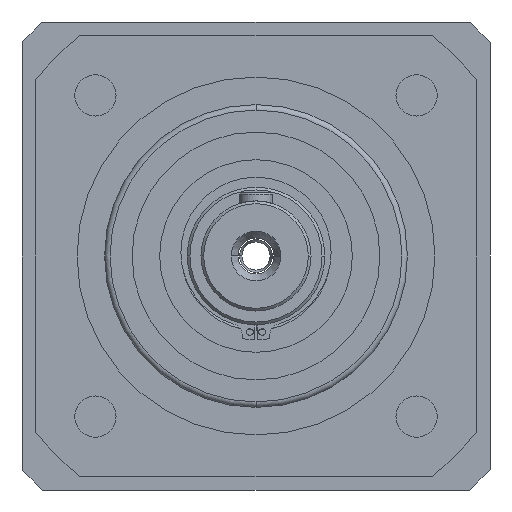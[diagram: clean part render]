
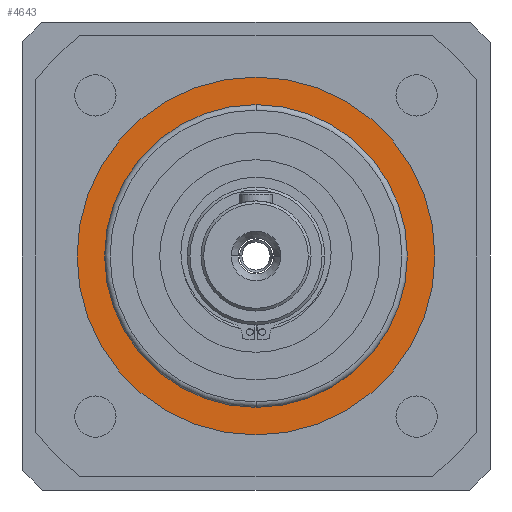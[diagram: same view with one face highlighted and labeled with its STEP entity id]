
A CAD part, front view. The second image highlights one B-rep face of the part: STEP entity #4643.
In plain terms, the highlighted planar face has unit normal (0, -1, 0).
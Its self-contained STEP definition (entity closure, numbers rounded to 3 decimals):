
#29 = DIRECTION ( 'NONE',  ( 0., 0., -1. ) ) ;
#251 = CARTESIAN_POINT ( 'NONE',  ( 0., -166.5, 0. ) ) ;
#283 = DIRECTION ( 'NONE',  ( 0., 0., 1. ) ) ;
#468 = VERTEX_POINT ( 'NONE', #5203 ) ;
#491 = ORIENTED_EDGE ( 'NONE', *, *, #3853, .T. ) ;
#1000 = DIRECTION ( 'NONE',  ( 0., -1., 0. ) ) ;
#1551 = EDGE_CURVE ( 'NONE', #3129, #3079, #8222, .T. ) ;
#1702 = DIRECTION ( 'NONE',  ( 0., 1., 0. ) ) ;
#2104 = AXIS2_PLACEMENT_3D ( 'NONE', #251, #1000, #283 ) ;
#2361 = CARTESIAN_POINT ( 'NONE',  ( 0., -166.5, 0. ) ) ;
#2461 = DIRECTION ( 'NONE',  ( 0., -1., 0. ) ) ;
#2475 = CIRCLE ( 'NONE', #5650, 55. ) ;
#2655 = AXIS2_PLACEMENT_3D ( 'NONE', #7994, #4092, #29 ) ;
#2838 = CARTESIAN_POINT ( 'NONE',  ( 0., -166.5, 55. ) ) ;
#2989 = CARTESIAN_POINT ( 'NONE',  ( 0., -166.5, 65. ) ) ;
#3016 = DIRECTION ( 'NONE',  ( 0., 0., 1. ) ) ;
#3079 = VERTEX_POINT ( 'NONE', #4928 ) ;
#3118 = EDGE_CURVE ( 'NONE', #3079, #3129, #6486, .T. ) ;
#3129 = VERTEX_POINT ( 'NONE', #2989 ) ;
#3139 = ORIENTED_EDGE ( 'NONE', *, *, #4071, .T. ) ;
#3288 = AXIS2_PLACEMENT_3D ( 'NONE', #6366, #2461, #7020 ) ;
#3515 = CIRCLE ( 'NONE', #2655, 55. ) ;
#3853 = EDGE_CURVE ( 'NONE', #4785, #468, #3515, .T. ) ;
#4071 = EDGE_CURVE ( 'NONE', #468, #4785, #2475, .T. ) ;
#4092 = DIRECTION ( 'NONE',  ( 0., 1., 0. ) ) ;
#4105 = FACE_OUTER_BOUND ( 'NONE', #7629, .T. ) ;
#4643 = ADVANCED_FACE ( 'NONE', ( #6739, #4105 ), #7662, .T. ) ;
#4785 = VERTEX_POINT ( 'NONE', #2838 ) ;
#4928 = CARTESIAN_POINT ( 'NONE',  ( 0., -166.5, -65. ) ) ;
#5203 = CARTESIAN_POINT ( 'NONE',  ( 0., -166.5, -55. ) ) ;
#5648 = CARTESIAN_POINT ( 'NONE',  ( 0., -166.5, 0. ) ) ;
#5650 = AXIS2_PLACEMENT_3D ( 'NONE', #5648, #1702, #6290 ) ;
#6115 = ORIENTED_EDGE ( 'NONE', *, *, #3118, .T. ) ;
#6290 = DIRECTION ( 'NONE',  ( 0., 0., -1. ) ) ;
#6291 = AXIS2_PLACEMENT_3D ( 'NONE', #2361, #6921, #3016 ) ;
#6366 = CARTESIAN_POINT ( 'NONE',  ( 0., -166.5, 0. ) ) ;
#6486 = CIRCLE ( 'NONE', #6291, 65. ) ;
#6739 = FACE_BOUND ( 'NONE', #7102, .T. ) ;
#6921 = DIRECTION ( 'NONE',  ( 0., -1., 0. ) ) ;
#7020 = DIRECTION ( 'NONE',  ( 0., 0., 1. ) ) ;
#7075 = ORIENTED_EDGE ( 'NONE', *, *, #1551, .T. ) ;
#7102 = EDGE_LOOP ( 'NONE', ( #3139, #491 ) ) ;
#7629 = EDGE_LOOP ( 'NONE', ( #7075, #6115 ) ) ;
#7662 = PLANE ( 'NONE',  #3288 ) ;
#7994 = CARTESIAN_POINT ( 'NONE',  ( 0., -166.5, 0. ) ) ;
#8222 = CIRCLE ( 'NONE', #2104, 65. ) ;
